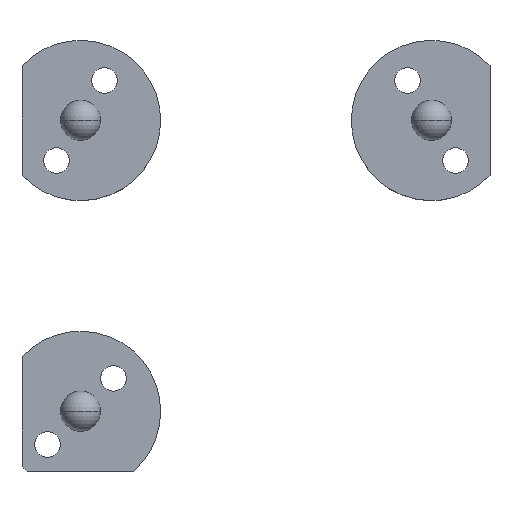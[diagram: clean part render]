
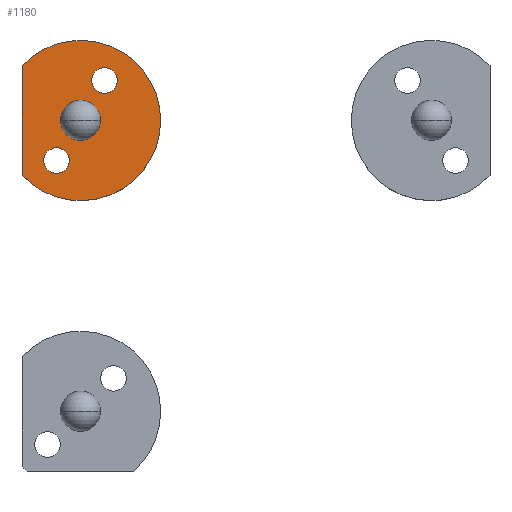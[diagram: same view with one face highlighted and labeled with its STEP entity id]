
A CAD part, top view. The second image highlights one B-rep face of the part: STEP entity #1180.
In plain terms, the highlighted planar face has unit normal (0, 0, 1).
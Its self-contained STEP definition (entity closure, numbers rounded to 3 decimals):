
#19 = CIRCLE ( 'NONE', #773, 1.6 ) ;
#20 = AXIS2_PLACEMENT_3D ( 'NONE', #438, #320, #191 ) ;
#23 = CARTESIAN_POINT ( 'NONE',  ( -18.9, 21.9, 5. ) ) ;
#32 = FACE_BOUND ( 'NONE', #940, .T. ) ;
#42 = CARTESIAN_POINT ( 'NONE',  ( -29.2, 23.734, 5. ) ) ;
#51 = VECTOR ( 'NONE', #761, 1000. ) ;
#62 = PLANE ( 'NONE',  #961 ) ;
#71 = CIRCLE ( 'NONE', #1018, 10. ) ;
#154 = CIRCLE ( 'NONE', #1426, 2.5 ) ;
#162 = CARTESIAN_POINT ( 'NONE',  ( -23.3, 11.9, 5. ) ) ;
#191 = DIRECTION ( 'NONE',  ( 1., 0., 0. ) ) ;
#193 = ORIENTED_EDGE ( 'NONE', *, *, #1441, .T. ) ;
#227 = CIRCLE ( 'NONE', #1455, 1.6 ) ;
#235 = CARTESIAN_POINT ( 'NONE',  ( -24.9, 11.9, 5. ) ) ;
#245 = CARTESIAN_POINT ( 'NONE',  ( -29.2, 16.9, 5. ) ) ;
#253 = CARTESIAN_POINT ( 'NONE',  ( -18.9, 21.9, 5. ) ) ;
#263 = CIRCLE ( 'NONE', #697, 2.5 ) ;
#292 = VERTEX_POINT ( 'NONE', #796 ) ;
#299 = ORIENTED_EDGE ( 'NONE', *, *, #1095, .T. ) ;
#320 = DIRECTION ( 'NONE',  ( 0., 0., -1. ) ) ;
#354 = EDGE_CURVE ( 'NONE', #292, #1185, #263, .T. ) ;
#426 = ORIENTED_EDGE ( 'NONE', *, *, #1208, .T. ) ;
#429 = DIRECTION ( 'NONE',  ( 1., 0., 0. ) ) ;
#438 = CARTESIAN_POINT ( 'NONE',  ( -24.9, 11.9, 5. ) ) ;
#442 = EDGE_LOOP ( 'NONE', ( #631, #426 ) ) ;
#508 = DIRECTION ( 'NONE',  ( 0., 0., 1. ) ) ;
#523 = CARTESIAN_POINT ( 'NONE',  ( -21.9, 16.9, 5. ) ) ;
#544 = CARTESIAN_POINT ( 'NONE',  ( -24.4, 16.9, 5. ) ) ;
#552 = CARTESIAN_POINT ( 'NONE',  ( -21.9, 16.9, 5. ) ) ;
#553 = EDGE_CURVE ( 'NONE', #893, #579, #227, .T. ) ;
#574 = VERTEX_POINT ( 'NONE', #921 ) ;
#575 = CARTESIAN_POINT ( 'NONE',  ( -21.9, 16.9, 5. ) ) ;
#579 = VERTEX_POINT ( 'NONE', #687 ) ;
#599 = CARTESIAN_POINT ( 'NONE',  ( -17.3, 21.9, 5. ) ) ;
#607 = DIRECTION ( 'NONE',  ( 1., 0., 0. ) ) ;
#631 = ORIENTED_EDGE ( 'NONE', *, *, #1075, .F. ) ;
#687 = CARTESIAN_POINT ( 'NONE',  ( -20.5, 21.9, 5. ) ) ;
#697 = AXIS2_PLACEMENT_3D ( 'NONE', #523, #508, #1039 ) ;
#721 = CARTESIAN_POINT ( 'NONE',  ( -21.9, 16.9, 5. ) ) ;
#761 = DIRECTION ( 'NONE',  ( 0., 1., 0. ) ) ;
#766 = EDGE_LOOP ( 'NONE', ( #299, #1296 ) ) ;
#772 = DIRECTION ( 'NONE',  ( 0., 0., -1. ) ) ;
#773 = AXIS2_PLACEMENT_3D ( 'NONE', #235, #1272, #1021 ) ;
#796 = CARTESIAN_POINT ( 'NONE',  ( -19.4, 16.9, 5. ) ) ;
#809 = VERTEX_POINT ( 'NONE', #162 ) ;
#893 = VERTEX_POINT ( 'NONE', #599 ) ;
#921 = CARTESIAN_POINT ( 'NONE',  ( -29.2, 10.066, 5. ) ) ;
#940 = EDGE_LOOP ( 'NONE', ( #1115, #1323 ) ) ;
#953 = VERTEX_POINT ( 'NONE', #1304 ) ;
#961 = AXIS2_PLACEMENT_3D ( 'NONE', #575, #1092, #1099 ) ;
#991 = CIRCLE ( 'NONE', #1459, 1.6 ) ;
#1018 = AXIS2_PLACEMENT_3D ( 'NONE', #552, #1598, #429 ) ;
#1021 = DIRECTION ( 'NONE',  ( 1., 0., 0. ) ) ;
#1039 = DIRECTION ( 'NONE',  ( 1., 0., 0. ) ) ;
#1073 = DIRECTION ( 'NONE',  ( 1., 0., 0. ) ) ;
#1075 = EDGE_CURVE ( 'NONE', #574, #1195, #1410, .T. ) ;
#1078 = CIRCLE ( 'NONE', #20, 1.6 ) ;
#1092 = DIRECTION ( 'NONE',  ( 0., 0., 1. ) ) ;
#1095 = EDGE_CURVE ( 'NONE', #579, #893, #991, .T. ) ;
#1099 = DIRECTION ( 'NONE',  ( 1., 0., 0. ) ) ;
#1115 = ORIENTED_EDGE ( 'NONE', *, *, #1331, .F. ) ;
#1122 = EDGE_CURVE ( 'NONE', #809, #953, #1078, .T. ) ;
#1125 = DIRECTION ( 'NONE',  ( 0., 0., 1. ) ) ;
#1180 = ADVANCED_FACE ( 'NONE', ( #1190, #1325, #1219, #32 ), #62, .T. ) ;
#1185 = VERTEX_POINT ( 'NONE', #544 ) ;
#1190 = FACE_BOUND ( 'NONE', #766, .T. ) ;
#1195 = VERTEX_POINT ( 'NONE', #42 ) ;
#1208 = EDGE_CURVE ( 'NONE', #574, #1195, #71, .T. ) ;
#1219 = FACE_OUTER_BOUND ( 'NONE', #442, .T. ) ;
#1272 = DIRECTION ( 'NONE',  ( 0., 0., -1. ) ) ;
#1296 = ORIENTED_EDGE ( 'NONE', *, *, #553, .T. ) ;
#1304 = CARTESIAN_POINT ( 'NONE',  ( -26.5, 11.9, 5. ) ) ;
#1314 = DIRECTION ( 'NONE',  ( 1., 0., 0. ) ) ;
#1323 = ORIENTED_EDGE ( 'NONE', *, *, #354, .F. ) ;
#1324 = DIRECTION ( 'NONE',  ( 0., 0., -1. ) ) ;
#1325 = FACE_BOUND ( 'NONE', #1638, .T. ) ;
#1331 = EDGE_CURVE ( 'NONE', #1185, #292, #154, .T. ) ;
#1410 = LINE ( 'NONE', #245, #51 ) ;
#1426 = AXIS2_PLACEMENT_3D ( 'NONE', #721, #1125, #607 ) ;
#1441 = EDGE_CURVE ( 'NONE', #953, #809, #19, .T. ) ;
#1455 = AXIS2_PLACEMENT_3D ( 'NONE', #23, #1324, #1073 ) ;
#1459 = AXIS2_PLACEMENT_3D ( 'NONE', #253, #772, #1314 ) ;
#1510 = ORIENTED_EDGE ( 'NONE', *, *, #1122, .T. ) ;
#1598 = DIRECTION ( 'NONE',  ( 0., 0., 1. ) ) ;
#1638 = EDGE_LOOP ( 'NONE', ( #193, #1510 ) ) ;
